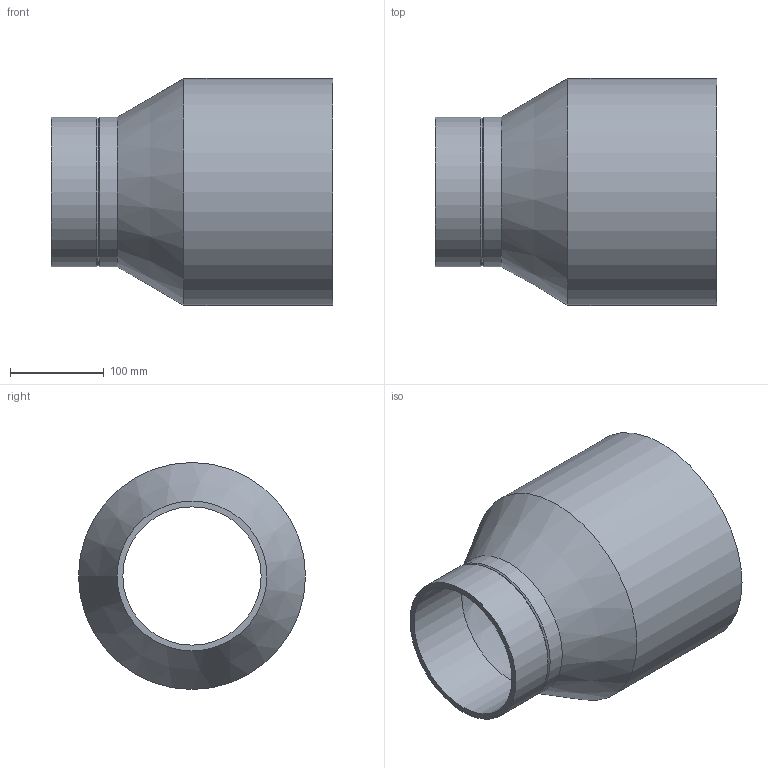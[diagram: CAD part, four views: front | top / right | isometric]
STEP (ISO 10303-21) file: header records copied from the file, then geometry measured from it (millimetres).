
FILE_DESCRIPTION(/* description */ (''),/* implementation_level */ '2;1');
FILE_NAME(/* name */ 'Z:\Geberit\Export\NewStep\369551.stp',/* time_stamp */ '2014-04-02T08:02:48+02:00',/* author */ ('nelson'),/* organization */ (''),/* preprocessor_version */ 'ST-DEVELOPER v15.2',/* originating_system */ 'Autodesk Inventor 2014',/* authorisation */ '');
FILE_SCHEMA (('AUTOMOTIVE_DESIGN { 1 0 10303 214 3 1 1 }'));
Length unit declared in the file: millimetre
Products named in the file (1): 369551
Bounding box: 300 x 242.4 x 242.4 mm (x, y, z)
Volume: 1249906.5 mm3; surface area: 411847.9 mm2
Topology: 1 solids, 1 shells, 11 faces, 20 edges, 11 vertices
Faces by surface type: cylinder 5, cone 4, plane 2
Full cylindrical faces by diameter (mm): 147.6 x1, 160 x2, 230 x1, 242.4 x1
Entity records: 249 total; most frequent: DIRECTION 46, CARTESIAN_POINT 34, AXIS2_PLACEMENT_3D 23, EDGE_LOOP 22, ORIENTED_EDGE 22, FACE_BOUND 12, CIRCLE 11, VERTEX_POINT 11
